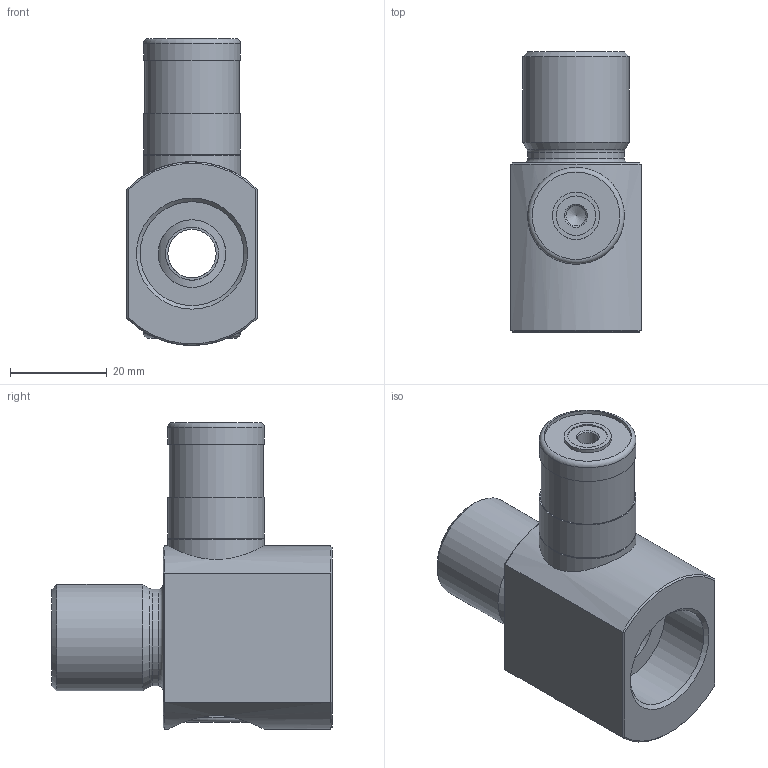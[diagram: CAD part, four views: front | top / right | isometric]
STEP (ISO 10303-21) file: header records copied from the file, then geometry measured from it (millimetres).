
FILE_DESCRIPTION(('STEP AP242'),'1');
FILE_NAME('A.6010 + MA.7025 Feststellpatrone mit Zylinderaufnahme.stp','2026-07-01T13:22:06',(' '),(' '),'Spatial InterOp 3D',' ',' ');
FILE_SCHEMA(('AP242_MANAGED_MODEL_BASED_3D_ENGINEERING_MIM_LF {1 0 10303 442 1 1 4}'));
Length unit declared in the file: millimetre
Products named in the file (3): A.6010 + MA.7025 Feststellpatrone mit Zylinderaufnahme; MV.5025.02; A.6010 Feststellpatrone
Assembly tree (2 placements, depth 2):
  A.6010 + MA.7025 Feststellpatrone mit Zylinderaufnahme
    MV.5025.02
    A.6010 Feststellpatrone
Bounding box: 27 x 58 x 63.5 mm (x, y, z)
Volume: 40222.1 mm3; surface area: 15278.8 mm2
Topology: 2 solids, 2 shells, 54 faces, 106 edges, 64 vertices
Faces by surface type: cylinder 20, plane 18, cone 12, torus 4
Full cylindrical faces by diameter (mm): 4.2 x2, 8.2 x1, 9.8 x1, 10 x2, 11 x2, 14 x1, 18.1 x1, 19.5 x1, 20 x5, 21.5 x1, 22 x1
Entity records: 2356 total; most frequent: CARTESIAN_POINT 721, DIRECTION 216, ORIENTED_EDGE 142, AXIS2_PLACEMENT_3D 102, EDGE_LOOP 100, FACE_OUTER_BOUND 76, EDGE_CURVE 71, VERTEX_POINT 60
